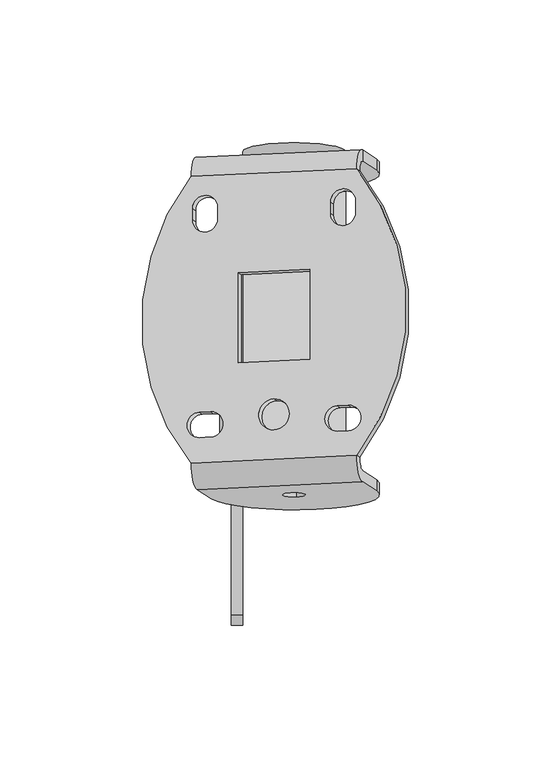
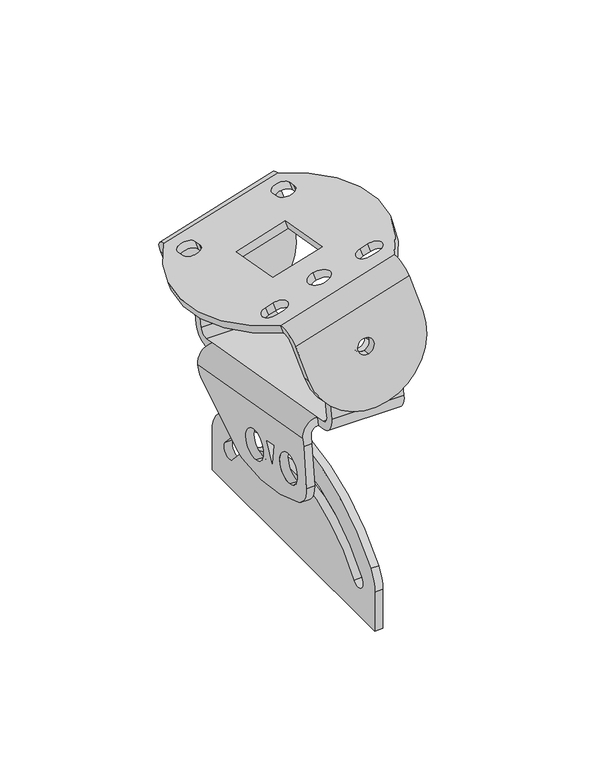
"""IFC4 building model written with IfcOpenShell, lengths in millimetres: proxy geometry, d&b U-Series U3 U5 Wall Mount : d&b U-Series U3 U5 Wall Mount."""

from ifc_helpers import new_model, si_unit, point, frame, frame_2d, origin, place, context, project, spatial, polyline, circle_curve, trimmed, segment, composite_curve, outline, extrude, source, transform, mapped, element, save
from ifc_brep_helpers import plane_surface, cylinder_surface, revolved_surface, advanced_brep


def communication_devices_d837c37c(model_context):
    return source(origin(), model_context, "Body", "SolidModel", [
        advanced_brep(
        [(23.9967392, 22.1830315, 144.0333703), (-33.9588103, 19.4864242, 128.7401501), (-29.0412485, 16.2995303, 110.6663765), (28.9143011, 18.9961376, 125.9595967), (0.9718025, 16.9769089, 114.5079816), (-1.0987499, 18.318759, 122.1179916), (-33.9588103, 23.4256552, 128.0455574), (23.9967392, 26.1222626, 143.3387776), (28.9143011, 22.9353686, 125.2650039), (-29.0412485, 20.2387613, 109.9717838), (0.9718025, 20.9161399, 113.8133889), (-1.0987499, 22.25799, 121.4233988), (23.9967392, 134.4511154, 124.237478), (23.9967392, 138.3903464, 123.5428853), (21.9261869, 131.8537345, 132.5420807), (22.9614631, 131.1828094, 128.7370757), (22.9614631, 30.7324186, 146.4491898), (21.9261869, 31.4033436, 150.2541948), (-36.0293627, 28.7067363, 134.9609746), (-34.9940865, 28.0358113, 131.1559697), (-33.9588103, 131.7545081, 108.9442579), (-34.9940865, 128.4862021, 113.4438556), (-36.0293627, 129.1571271, 117.2488605), (-33.9588103, 135.6937391, 108.2496652), (-33.1315852, 37.7048365, 134.1628021), (-33.1315852, 46.5681062, 132.5999685), (-29.2678819, 46.7478801, 133.6195165), (-29.2678819, 37.8846103, 135.1823501), (19.0284094, 40.1317831, 147.9267002), (15.1647061, 39.9520092, 146.9071522), (15.1647061, 48.815279, 145.3443186), (19.0284094, 48.9950528, 146.3638666), (-26.8530674, 118.2588008, 121.6672411), (-26.8530674, 114.3195698, 122.3618338), (-35.5463998, 113.9150787, 120.0678508), (-35.5463998, 117.8543097, 119.3732581), (12.7498915, 120.1014825, 132.1176082), (21.443224, 120.5059736, 134.4115912), (21.443224, 116.5667426, 135.1061839), (12.7498915, 116.1622515, 132.8122009), (-19.6086237, 63.9390464, 133.2163675), (-19.6086237, 95.4528945, 127.6596258), (5.5054478, 96.6214244, 134.2866878), (5.5054478, 65.1075763, 139.8434295), (-7.0515879, 51.2284067, 138.8741489), (-7.0515879, 40.3955214, 140.7842788), (-32.096309, 37.0339114, 130.3577971), (-28.2326057, 37.2136852, 131.3773451), (-28.2326057, 46.076955, 129.8145115), (-32.096309, 45.8971812, 128.7949635), (20.0636856, 39.460858, 144.1216952), (20.0636856, 48.3241278, 142.5588616), (16.1999823, 48.144354, 141.5393136), (16.1999823, 39.2810842, 143.1021472), (-25.8177912, 117.5878757, 117.8622361), (-34.5111236, 117.1833846, 115.5682531), (-34.5111236, 113.2441536, 116.2628458), (-25.8177912, 113.6486447, 118.5568288), (13.7851677, 119.4305574, 128.3126032), (13.7851677, 115.4913264, 129.0071959), (22.4785001, 115.8958175, 131.3011789), (22.4785001, 119.8350485, 130.6065862), (-18.5733475, 63.2681214, 129.4113625), (6.540724, 64.4366512, 136.0384246), (6.540724, 95.9504993, 130.4816829), (-18.5733475, 94.7819695, 123.8546208), (-6.0163117, 50.5574816, 135.0691439), (-6.0163117, 39.7245963, 136.9792739)],
        [
            (0, 1),
            (1, 2),
            (2, 3, circle_curve(frame((-0.0634737, 17.6478339, 118.3129866), z_axis=(0.0, -0.9848077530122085, 0.17364817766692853), x_axis=(-0.2588190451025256, 0.1677312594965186, 0.9512512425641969)), 30.0)),
            (3, 0),
            (4, 5, circle_curve(frame((-0.0634737, 17.6478339, 118.3129866), z_axis=(0.0, 0.9848077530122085, -0.17364817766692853), x_axis=(-0.2588190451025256, 0.1677312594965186, 0.9512512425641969)), 4.0)),
            (5, 4, circle_curve(frame((-0.0634737, 17.6478339, 118.3129866), z_axis=(0.0, 0.9848077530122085, -0.17364817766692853), x_axis=(-0.2588190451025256, 0.1677312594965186, 0.9512512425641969)), 4.0)),
            (6, 7),
            (7, 8),
            (8, 9, circle_curve(frame((-0.0634737, 21.587065, 117.6183939), z_axis=(0.0, 0.9848077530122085, -0.17364817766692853), x_axis=(-0.2588190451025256, 0.1677312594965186, 0.9512512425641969)), 30.0)),
            (9, 6),
            (10, 11, circle_curve(frame((-0.0634737, 21.587065, 117.6183939), z_axis=(0.0, -0.9848077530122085, 0.17364817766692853), x_axis=(-0.2588190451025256, 0.1677312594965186, 0.9512512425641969)), 4.0)),
            (11, 10, circle_curve(frame((-0.0634737, 21.587065, 117.6183939), z_axis=(0.0, -0.9848077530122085, 0.17364817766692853), x_axis=(-0.2588190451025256, 0.1677312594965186, 0.9512512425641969)), 4.0)),
            (12, 13),
            (13, 14, circle_curve(frame((23.9967392, 130.5118844, 124.9320707), z_axis=(0.9659258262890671, 0.0449434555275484, 0.25488700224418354), x_axis=(-0.2588190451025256, 0.1677312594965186, 0.9512512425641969)), 8.0)),
            (14, 15),
            (15, 12, circle_curve(frame((23.9967392, 130.5118844, 124.9320707), z_axis=(-0.9659258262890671, -0.0449434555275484, -0.25488700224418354), x_axis=(-0.2588190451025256, 0.1677312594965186, 0.9512512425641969)), 4.0)),
            (3, 8),
            (7, 16, circle_curve(frame((23.9967392, 30.0614936, 142.6441848), z_axis=(-0.9659258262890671, -0.0449434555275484, -0.25488700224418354), x_axis=(-0.2588190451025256, 0.1677312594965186, 0.9512512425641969)), 4.0)),
            (16, 17),
            (17, 0, circle_curve(frame((23.9967392, 30.0614936, 142.6441848), z_axis=(0.9659258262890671, 0.0449434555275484, 0.25488700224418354), x_axis=(-0.2588190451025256, 0.1677312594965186, 0.9512512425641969)), 8.0)),
            (2, 9),
            (1, 18, circle_curve(frame((-33.9588103, 27.3648862, 127.3509647), z_axis=(-0.9659258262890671, -0.0449434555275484, -0.25488700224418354), x_axis=(-0.2588190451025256, 0.1677312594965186, 0.9512512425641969)), 8.0)),
            (18, 19),
            (19, 6, circle_curve(frame((-33.9588103, 27.3648862, 127.3509647), z_axis=(0.9659258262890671, 0.0449434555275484, 0.25488700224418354), x_axis=(-0.2588190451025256, 0.1677312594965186, 0.9512512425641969)), 4.0)),
            (20, 21, circle_curve(frame((-33.9588103, 127.815277, 109.6388506), z_axis=(0.9659258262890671, 0.0449434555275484, 0.25488700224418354), x_axis=(-0.2588190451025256, 0.1677312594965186, 0.9512512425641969)), 4.0)),
            (21, 22),
            (22, 23, circle_curve(frame((-33.9588103, 127.815277, 109.6388506), z_axis=(-0.9659258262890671, -0.0449434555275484, -0.25488700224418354), x_axis=(-0.2588190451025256, 0.1677312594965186, 0.9512512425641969)), 8.0)),
            (23, 20),
            (5, 11),
            (10, 4),
            (19, 16),
            (17, 18),
            (23, 13),
            (12, 20),
            (22, 14),
            (15, 21),
            (17, 14, circle_curve(frame((-39.4560684, 78.7724909, 125.2006838), z_axis=(-0.2588190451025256, 0.1677312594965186, 0.9512512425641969), x_axis=(-0.9659258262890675, -0.04494345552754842, -0.25488700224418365)), 81.481874)),
            (22, 18, circle_curve(frame((25.3528926, 81.7879799, 142.3023715), z_axis=(-0.2588190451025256, 0.1677312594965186, 0.9512512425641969), x_axis=(0.9659258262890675, 0.04494345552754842, 0.25488700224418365)), 81.481874)),
            (24, 25, circle_curve(frame((-33.1315852, 42.1364713, 133.3813853), z_axis=(0.2588190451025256, -0.1677312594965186, -0.9512512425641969), x_axis=(0.9659258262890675, 0.04494345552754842, 0.25488700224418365)), 4.5)),
            (25, 26),
            (26, 27, circle_curve(frame((-29.2678819, 42.3162452, 134.4009333), z_axis=(0.2588190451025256, -0.1677312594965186, -0.9512512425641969), x_axis=(0.9659258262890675, 0.04494345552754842, 0.25488700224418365)), 4.5)),
            (27, 24),
            (28, 29),
            (29, 30, circle_curve(frame((15.1647061, 44.3836441, 146.1257354), z_axis=(0.2588190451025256, -0.1677312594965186, -0.9512512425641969), x_axis=(-0.9659258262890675, -0.04494345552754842, -0.25488700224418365)), 4.5)),
            (30, 31),
            (31, 28, circle_curve(frame((19.0284094, 44.5634179, 147.1452834), z_axis=(0.2588190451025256, -0.1677312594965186, -0.9512512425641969), x_axis=(-0.9659258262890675, -0.04494345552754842, -0.25488700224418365)), 4.5)),
            (32, 33),
            (33, 34, circle_curve(frame((-31.1997336, 114.1173242, 121.2148423), z_axis=(0.2588190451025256, -0.1677312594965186, -0.9512512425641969), x_axis=(0.9659258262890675, 0.04494345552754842, 0.25488700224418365)), 4.5)),
            (34, 35),
            (35, 32, circle_curve(frame((-31.1997336, 118.0565552, 120.5202496), z_axis=(0.2588190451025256, -0.1677312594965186, -0.9512512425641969), x_axis=(0.9659258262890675, 0.04494345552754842, 0.25488700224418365)), 4.5)),
            (36, 37, circle_curve(frame((17.0965577, 120.303728, 133.2645997), z_axis=(0.2588190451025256, -0.1677312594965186, -0.9512512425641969), x_axis=(0.9659258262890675, 0.04494345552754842, 0.25488700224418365)), 4.5)),
            (37, 38),
            (38, 39, circle_curve(frame((17.0965577, 116.364497, 133.9591924), z_axis=(0.2588190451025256, -0.1677312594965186, -0.9512512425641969), x_axis=(0.9659258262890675, 0.04494345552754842, 0.25488700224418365)), 4.5)),
            (39, 36),
            (40, 41),
            (41, 42),
            (42, 43),
            (43, 40),
            (44, 45, circle_curve(frame((-7.0515879, 45.811964, 139.8292139), z_axis=(0.2588190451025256, -0.1677312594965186, -0.9512512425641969), x_axis=(0.0, -0.9848077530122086, 0.173648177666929)), 5.5)),
            (45, 44, circle_curve(frame((-7.0515879, 45.811964, 139.8292139), z_axis=(0.2588190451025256, -0.1677312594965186, -0.9512512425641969), x_axis=(0.0, -0.9848077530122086, 0.173648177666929)), 5.5)),
            (19, 21, circle_curve(frame((26.3881687, 81.1170548, 138.4973665), z_axis=(0.2588190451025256, -0.1677312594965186, -0.9512512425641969), x_axis=(0.9659258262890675, 0.04494345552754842, 0.25488700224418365)), 81.481874)),
            (15, 16, circle_curve(frame((-38.4207922, 78.1015659, 121.3956789), z_axis=(0.2588190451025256, -0.1677312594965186, -0.9512512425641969), x_axis=(-0.9659258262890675, -0.04494345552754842, -0.25488700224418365)), 81.481874)),
            (46, 47),
            (47, 48, circle_curve(frame((-28.2326057, 41.6453201, 130.5959283), z_axis=(-0.2588190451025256, 0.1677312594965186, 0.9512512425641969), x_axis=(0.9659258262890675, 0.04494345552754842, 0.25488700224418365)), 4.5)),
            (48, 49),
            (49, 46, circle_curve(frame((-32.096309, 41.4655463, 129.5763803), z_axis=(-0.2588190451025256, 0.1677312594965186, 0.9512512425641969), x_axis=(0.9659258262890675, 0.04494345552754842, 0.25488700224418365)), 4.5)),
            (50, 51, circle_curve(frame((20.0636856, 43.8924929, 143.3402784), z_axis=(-0.2588190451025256, 0.1677312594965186, 0.9512512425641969), x_axis=(-0.9659258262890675, -0.04494345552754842, -0.25488700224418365)), 4.5)),
            (51, 52),
            (52, 53, circle_curve(frame((16.1999823, 43.7127191, 142.3207304), z_axis=(-0.2588190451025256, 0.1677312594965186, 0.9512512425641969), x_axis=(-0.9659258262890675, -0.04494345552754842, -0.25488700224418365)), 4.5)),
            (53, 50),
            (54, 55, circle_curve(frame((-30.1644574, 117.3856302, 116.7152446), z_axis=(-0.2588190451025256, 0.1677312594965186, 0.9512512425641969), x_axis=(0.9659258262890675, 0.04494345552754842, 0.25488700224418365)), 4.5)),
            (55, 56),
            (56, 57, circle_curve(frame((-30.1644574, 113.4463992, 117.4098373), z_axis=(-0.2588190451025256, 0.1677312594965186, 0.9512512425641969), x_axis=(0.9659258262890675, 0.04494345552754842, 0.25488700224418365)), 4.5)),
            (57, 54),
            (58, 59),
            (59, 60, circle_curve(frame((18.1318339, 115.693572, 130.1541874), z_axis=(-0.2588190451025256, 0.1677312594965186, 0.9512512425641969), x_axis=(0.9659258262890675, 0.04494345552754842, 0.25488700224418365)), 4.5)),
            (60, 61),
            (61, 58, circle_curve(frame((18.1318339, 119.632803, 129.4595947), z_axis=(-0.2588190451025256, 0.1677312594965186, 0.9512512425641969), x_axis=(0.9659258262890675, 0.04494345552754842, 0.25488700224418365)), 4.5)),
            (62, 63),
            (63, 64),
            (64, 65),
            (65, 62),
            (66, 67, circle_curve(frame((-6.0163117, 45.141039, 136.0242089), z_axis=(-0.2588190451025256, 0.1677312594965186, 0.9512512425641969), x_axis=(0.0, -0.9848077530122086, 0.173648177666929)), 5.5)),
            (67, 66, circle_curve(frame((-6.0163117, 45.141039, 136.0242089), z_axis=(-0.2588190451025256, 0.1677312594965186, 0.9512512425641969), x_axis=(0.0, -0.9848077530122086, 0.173648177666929)), 5.5)),
            (27, 47),
            (46, 24),
            (26, 48),
            (25, 49),
            (31, 51),
            (50, 28),
            (30, 52),
            (29, 53),
            (35, 55),
            (54, 32),
            (34, 56),
            (33, 57),
            (39, 59),
            (58, 36),
            (38, 60),
            (37, 61),
            (43, 63),
            (62, 40),
            (42, 64),
            (41, 65),
            (45, 67),
            (66, 44),
        ],
        [
            plane_surface(frame((28.9143011, 18.9961376, 125.9595967), z_axis=(0.0, -0.9848077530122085, 0.17364817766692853), x_axis=(0.2588190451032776, -0.16773125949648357, -0.9512512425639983))),
            plane_surface(frame((28.9143011, 22.9353686, 125.2650039), z_axis=(0.0, 0.9848077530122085, -0.17364817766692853), x_axis=(-0.2588190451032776, 0.16773125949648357, 0.9512512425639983))),
            plane_surface(frame((23.9967392, 22.1830315, 144.0333703), z_axis=(0.9659258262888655, 0.044943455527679, 0.25488700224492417), x_axis=(0.0, 0.9848077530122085, -0.17364817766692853))),
            cylinder_surface(frame((-0.0634737, 21.587065, 117.6183939), z_axis=(0.0, -0.9848077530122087, 0.17364817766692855), x_axis=(-0.2588190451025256, 0.1677312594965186, 0.9512512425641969)), 30.0),
            plane_surface(frame((-29.0412485, 16.2995303, 110.6663765), z_axis=(-0.9659258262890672, -0.04494345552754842, -0.25488700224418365), x_axis=(0.0, 0.9848077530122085, -0.17364817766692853))),
            revolved_surface(polyline([(-1.0987498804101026, 22.257990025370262, 121.42339879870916), (-1.0987498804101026, 18.318758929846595, 122.11799152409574)]), (-0.0634737, 86.5843767, 106.1576141), (0.0, 0.9848077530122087, -0.17364817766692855)),
            revolved_surface(polyline([(22.96146310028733, 30.732418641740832, 146.4491897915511), (-34.9940864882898, 28.035811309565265, 131.15596965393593)]), (23.9967392, 30.0614936, 142.6441848), (0.9659258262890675, 0.04494345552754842, 0.25488700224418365)),
            cylinder_surface(frame((23.9967392, 30.0614936, 142.6441848), z_axis=(-0.9659258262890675, -0.04494345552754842, -0.25488700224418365), x_axis=(-0.2588190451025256, 0.1677312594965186, 0.9512512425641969)), 8.0),
            plane_surface(frame((-33.9588103, 131.7545081, 108.9442579), z_axis=(0.2588190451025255, -0.16773125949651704, -0.9512512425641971), x_axis=(0.9659258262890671, 0.04494345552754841, 0.25488700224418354))),
            cylinder_surface(frame((-4.9810356, 129.1635807, 117.2854607), z_axis=(-0.9659258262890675, -0.04494345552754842, -0.25488700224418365), x_axis=(-0.2588190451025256, 0.1677312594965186, 0.9512512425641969)), 8.0),
            revolved_surface(polyline([(22.9614630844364, 131.18280940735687, 128.7370757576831), (-34.99408650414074, 128.4862020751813, 113.44385562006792)]), (-4.9810356, 129.1635807, 117.2854607), (0.9659258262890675, 0.04494345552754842, 0.25488700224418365)),
            plane_surface(frame((-37.5279184, 28.6370102, 134.5655381), z_axis=(-0.2588190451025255, 0.1677312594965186, 0.9512512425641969), x_axis=(-0.9659258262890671, -0.04494345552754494, -0.25488700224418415))),
            plane_surface(frame((-36.4926422, 27.9660851, 130.7605331), z_axis=(0.2588190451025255, -0.1677312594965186, -0.9512512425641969), x_axis=(0.9659258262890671, 0.04494345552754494, 0.25488700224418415))),
            plane_surface(frame((-33.1315852, 37.7048365, 134.1628021), z_axis=(0.0, 0.9848077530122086, -0.17364817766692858), x_axis=(0.2588190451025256, -0.1677312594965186, -0.9512512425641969))),
            revolved_surface(polyline([(-23.8859395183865, 41.84756571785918, 131.74291978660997), (-24.921215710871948, 42.518490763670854, 135.54792480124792)]), (-22.2797677, 37.7875012, 108.7171497), (0.2588190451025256, -0.1677312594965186, -0.9512512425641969)),
            plane_surface(frame((-29.2678819, 46.7478801, 133.6195165), z_axis=(0.0, -0.9848077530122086, 0.17364817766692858), x_axis=(0.2588190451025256, -0.1677312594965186, -0.9512512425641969))),
            revolved_surface(polyline([(-27.7496428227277, 41.667791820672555, 130.72337180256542), (-28.784919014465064, 42.338716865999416, 134.5283768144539)]), (-26.143471, 37.6077273, 107.6976017), (0.2588190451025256, -0.1677312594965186, -0.9512512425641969)),
            revolved_surface(polyline([(15.717019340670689, 43.69024732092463, 142.19328688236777), (14.681743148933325, 44.361172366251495, 145.99829189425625)]), (26.0165236, 40.0346739, 121.4614998), (0.2588190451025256, -0.1677312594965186, -0.9512512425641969)),
            plane_surface(frame((19.0284094, 48.9950528, 146.3638666), z_axis=(0.0, -0.9848077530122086, 0.17364817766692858), x_axis=(0.2588190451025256, -0.1677312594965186, -0.9512512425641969))),
            revolved_surface(polyline([(11.853316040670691, 43.51047352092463, 141.17373888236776), (10.818039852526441, 44.181398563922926, 144.97874388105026)]), (22.1528203, 39.8549001, 120.4419518), (0.2588190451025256, -0.1677312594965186, -0.9512512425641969)),
            plane_surface(frame((15.1647061, 39.9520092, 146.9071522), z_axis=(0.0, 0.9848077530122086, -0.17364817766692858), x_axis=(0.2588190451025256, -0.1677312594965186, -0.9512512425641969))),
            revolved_surface(polyline([(-25.817791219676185, 117.58787571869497, 117.86223609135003), (-26.853067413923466, 118.25880076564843, 121.66724111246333)]), (-24.2116194, 113.5278112, 94.836466), (0.2588190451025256, -0.1677312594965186, -0.9512512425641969)),
            plane_surface(frame((-35.5463998, 117.8543097, 119.3732581), z_axis=(0.9659258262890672, 0.044943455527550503, 0.25488700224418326), x_axis=(0.2588190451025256, -0.1677312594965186, -0.9512512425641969))),
            revolved_surface(polyline([(-25.817791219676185, 113.64864471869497, 118.55682879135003), (-26.853067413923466, 114.31956976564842, 122.36183381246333)]), (-24.2116194, 109.5885802, 95.5310587), (0.2588190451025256, -0.1677312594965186, -0.9512512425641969)),
            plane_surface(frame((-26.8530674, 114.3195698, 122.3618338), z_axis=(-0.9659258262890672, -0.044943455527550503, -0.25488700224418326), x_axis=(0.2588190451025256, -0.1677312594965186, -0.9512512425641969))),
            plane_surface(frame((12.7498915, 120.1014825, 132.1176082), z_axis=(0.9659258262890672, 0.044943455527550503, 0.25488700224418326), x_axis=(0.2588190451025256, -0.1677312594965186, -0.9512512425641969))),
            revolved_surface(polyline([(22.478500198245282, 115.89581750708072, 131.30117892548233), (21.443224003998, 116.56674255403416, 135.10618394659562)]), (24.084672, 111.835753, 108.2754089), (0.2588190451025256, -0.1677312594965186, -0.9512512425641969)),
            plane_surface(frame((21.443224, 116.5667426, 135.1061839), z_axis=(-0.9659258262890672, -0.044943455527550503, -0.25488700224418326), x_axis=(0.2588190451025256, -0.1677312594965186, -0.9512512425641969))),
            revolved_surface(polyline([(22.478500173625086, 119.83504852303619, 130.60658621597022), (21.443223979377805, 120.50597356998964, 134.41159123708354)]), (24.084672, 115.774984, 107.5808161), (0.2588190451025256, -0.1677312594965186, -0.9512512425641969)),
            plane_surface(frame((-19.6086237, 63.9390464, 133.2163675), z_axis=(0.0, 0.9848077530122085, -0.17364817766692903), x_axis=(0.2588190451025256, -0.1677312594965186, -0.9512512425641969))),
            plane_surface(frame((5.5054478, 65.1075763, 139.8434295), z_axis=(-0.9659258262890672, -0.044943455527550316, -0.2548870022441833), x_axis=(0.2588190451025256, -0.1677312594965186, -0.9512512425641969))),
            plane_surface(frame((5.5054478, 96.6214244, 134.2866878), z_axis=(0.0, -0.9848077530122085, 0.17364817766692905), x_axis=(0.2588190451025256, -0.1677312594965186, -0.9512512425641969))),
            plane_surface(frame((-19.6086237, 95.4528945, 127.6596258), z_axis=(0.9659258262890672, 0.04494345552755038, 0.25488700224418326), x_axis=(0.2588190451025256, -0.1677312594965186, -0.9512512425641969))),
            revolved_surface(polyline([(-6.016311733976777, 39.724596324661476, 136.97927384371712), (-7.051587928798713, 40.39552137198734, 140.7842788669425)]), (-0.0634737, 41.28322, 114.1454303), (0.2588190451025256, -0.1677312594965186, -0.9512512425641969)),
            cylinder_surface(frame((26.3881687, 81.1170548, 138.4973665), z_axis=(-0.2588190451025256, 0.1677312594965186, 0.9512512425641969), x_axis=(0.9659258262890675, 0.04494345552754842, 0.25488700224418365)), 81.481874),
            cylinder_surface(frame((-38.4207922, 78.1015659, 121.3956789), z_axis=(-0.2588190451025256, 0.1677312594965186, 0.9512512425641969), x_axis=(-0.9659258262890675, -0.04494345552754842, -0.25488700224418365)), 81.481874),
        ],
        [
            (0, [[1, 2, 3, 4], [5, 6]]),
            (1, [[7, 8, 9, 10], [11, 12]]),
            (2, [[13, 14, 15, 16]]),
            (2, [[17, -8, 18, 19, 20, -4]]),
            (3, [[21, -9, -17, -3]]),
            (4, [[22, 23, 24, -10, -21, -2]]),
            (4, [[25, 26, 27, 28]]),
            (5, [[29, -11, 30, -6]]),
            (5, [[-30, -12, -29, -5]]),
            (6, [[31, -18, -7, -24]]),
            (7, [[-1, -20, 32, -22]]),
            (8, [[33, -13, 34, -28]]),
            (9, [[35, -14, -33, -27]]),
            (10, [[-34, -16, 36, -25]]),
            (11, [[-32, 37, -35, 38], [39, 40, 41, 42], [43, 44, 45, 46], [47, 48, 49, 50], [51, 52, 53, 54], [55, 56, 57, 58], [59, 60]]),
            (12, [[-31, 61, -36, 62], [63, 64, 65, 66], [67, 68, 69, 70], [71, 72, 73, 74], [75, 76, 77, 78], [79, 80, 81, 82], [83, 84]]),
            (13, [[85, -63, 86, -42]]),
            (14, [[87, -64, -85, -41]]),
            (15, [[88, -65, -87, -40]]),
            (16, [[-86, -66, -88, -39]]),
            (17, [[89, -67, 90, -46]]),
            (18, [[91, -68, -89, -45]]),
            (19, [[92, -69, -91, -44]]),
            (20, [[-90, -70, -92, -43]]),
            (21, [[93, -71, 94, -50]]),
            (22, [[95, -72, -93, -49]]),
            (23, [[96, -73, -95, -48]]),
            (24, [[-94, -74, -96, -47]]),
            (25, [[97, -75, 98, -54]]),
            (26, [[99, -76, -97, -53]]),
            (27, [[100, -77, -99, -52]]),
            (28, [[-98, -78, -100, -51]]),
            (29, [[101, -79, 102, -58]]),
            (30, [[103, -80, -101, -57]]),
            (31, [[104, -81, -103, -56]]),
            (32, [[-102, -82, -104, -55]]),
            (33, [[105, -83, 106, -60]]),
            (33, [[-106, -84, -105, -59]]),
            (34, [[-26, -61, -23, -38]]),
            (35, [[-19, -62, -15, -37]]),
        ],
    ),
        extrude(outline(composite_curve([segment(polyline([(19.0, 0.0), (0.0, 0.0)]), True, "CONTINUOUS"), segment(trimmed(circle_curve(frame_2d((0.0, 30.0)), 30.0), [point((0.0, 0.0))], [point((0.0, 60.0))], False, "CARTESIAN"), True, "CONTINUOUS"), segment(polyline([(0.0, 60.0), (19.0, 60.0), (19.0, 0.0)]), True, "CONTINUOUS")], self_intersect=False), holes=[composite_curve([segment(trimmed(circle_curve(frame_2d((0.0, 30.0)), 4.0), [point((-4.0, 30.0))], [point((4.0, 30.0))], True, "CARTESIAN"), True, "CONTINUOUS"), segment(trimmed(circle_curve(frame_2d((0.0, 30.0)), 4.0), [point((4.0, 30.0))], [point((-4.0, 30.0))], True, "CARTESIAN"), True, "CONTINUOUS")], self_intersect=False)]), frame((28.9143011, 135.2034525, 105.4691117), z_axis=(0.0, -0.9848077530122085, 0.17364817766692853), x_axis=(-0.2588190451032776, 0.16773125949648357, 0.9512512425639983)), (0.0, 0.0, 1.0), 4.0),
        advanced_brep(
        [(-22.0, 82.6863439, 32.4812505), (-22.0, 112.3519595, 50.4080282), (-22.0, 117.5279607, 57.0553512), (-22.0, 26.9256475, 73.0309835), (-22.0, 26.292206, 69.4385584), (-22.0, 23.9133082, 48.7645932), (-22.0, 30.6948194, 37.509776), (-22.0, 79.2319778, 31.1885311), (-22.0, 57.9780366, 53.3396369), (-22.0, 53.2871315, 44.0125039), (-22.0, 52.0691901, 54.381526), (-22.0, 69.8413131, 52.3641569), (-22.0, 67.2346618, 37.5811023), (-22.0, 40.5877228, 57.5223542), (-22.0, 37.9810714, 42.7392996), (-26.0, 82.6863439, 32.4812505), (-26.0, 79.2319778, 31.1885311), (-26.0, 30.6948194, 37.509776), (-26.0, 23.9133082, 48.7645932), (-26.0, 26.292206, 69.4385584), (-26.0, 26.9256475, 73.0309835), (-26.0, 117.5279607, 57.0553512), (-26.0, 112.3519595, 50.4080282), (-26.0, 57.9780366, 53.3396369), (-26.0, 52.0691901, 54.381526), (-26.0, 53.2871315, 44.0125039), (-26.0, 69.8413131, 52.3641569), (-26.0, 67.2346618, 37.5811023), (-26.0, 40.5877228, 57.5223542), (-26.0, 37.9810714, 42.7392996), (-18.0, 27.6202402, 76.9702145), (-18.0, 28.3148329, 80.9094455), (-18.0, 118.9171462, 64.9338132), (-18.0, 118.2225535, 60.9945822), (18.0, 132.4142397, 66.6156179), (-18.0, 132.4142397, 66.6156179), (-18.0, 137.7973332, 97.1446583), (18.0, 137.7973332, 97.1446583), (-4.0, 137.7973332, 97.1446583), (4.0, 137.7973332, 97.1446583), (-18.0, 128.4750087, 67.3102106), (18.0, 128.4750087, 67.3102106), (18.0, 133.8581022, 97.839251), (-18.0, 133.8581022, 97.839251), (-4.0, 133.8581022, 97.839251), (4.0, 133.8581022, 97.839251), (18.0, 123.8411849, 64.0655723), (18.0, 23.3907941, 81.7776864), (18.0, 20.1461558, 86.4115102), (18.0, 25.5292493, 116.9405505), (18.0, 21.5900183, 117.6351432), (18.0, 16.2069248, 87.1061029), (18.0, 22.6962014, 77.8384554), (18.0, 123.1465922, 60.1263413), (-18.0, 123.1465922, 60.1263413), (-18.0, 123.8411849, 64.0655723), (-18.0, 23.3907941, 81.7776864), (-18.0, 22.6962014, 77.8384554), (-18.0, 16.2069248, 87.1061029), (-18.0, 21.5900183, 117.6351432), (-18.0, 25.5292493, 116.9405505), (-18.0, 20.1461558, 86.4115102), (-4.0, 25.5292493, 116.9405505), (4.0, 25.5292493, 116.9405505), (-4.0, 21.5900183, 117.6351432), (4.0, 21.5900183, 117.6351432)],
        [
            (0, 1),
            (1, 2, circle_curve(frame((-22.0, 106.2585276, 60.4915697), z_axis=(1.0, 0.0, 0.0), x_axis=(0.0, -0.17364817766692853, -0.9848077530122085)), 11.7816689)),
            (2, 3),
            (3, 4),
            (4, 5, circle_curve(frame((-22.0, 197.2668637, 39.2911132), z_axis=(1.0, 0.0, 0.0), x_axis=(0.0, -0.17364817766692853, -0.9848077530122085)), 173.6122173)),
            (5, 6, circle_curve(frame((-22.0, 35.5849243, 48.126759), z_axis=(1.0, 0.0, 0.0), x_axis=(0.0, -0.17364817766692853, -0.9848077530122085)), 11.6890314)),
            (6, 7, circle_curve(frame((-22.0, 65.1045734, 112.2173299), z_axis=(1.0, 0.0, 0.0), x_axis=(0.0, -0.17364817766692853, -0.9848077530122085)), 82.2511385)),
            (7, 0, circle_curve(frame((-22.0, 77.5143841, 41.0399205), z_axis=(1.0, 0.0, 0.0), x_axis=(0.0, -0.17364817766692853, -0.9848077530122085)), 10.0)),
            (8, 9),
            (9, 10),
            (10, 8),
            (11, 12, circle_curve(frame((-22.0, 68.5379874, 44.9726296), z_axis=(-1.0, 0.0, 0.0), x_axis=(0.0, -0.17364817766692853, -0.9848077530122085)), 7.5055535)),
            (12, 11, circle_curve(frame((-22.0, 68.5379874, 44.9726296), z_axis=(-1.0, 0.0, 0.0), x_axis=(0.0, -0.17364817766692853, -0.9848077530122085)), 7.5055535)),
            (13, 14, circle_curve(frame((-22.0, 39.2843971, 50.1308269), z_axis=(-1.0, 0.0, 0.0), x_axis=(0.0, -0.17364817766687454, -0.984807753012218)), 7.5055535)),
            (14, 13, circle_curve(frame((-22.0, 39.2843971, 50.1308269), z_axis=(-1.0, 0.0, 0.0), x_axis=(0.0, -0.17364817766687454, -0.984807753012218)), 7.5055535)),
            (15, 16, circle_curve(frame((-26.0, 77.5143841, 41.0399205), z_axis=(-1.0, 0.0, 0.0), x_axis=(0.0, -0.17364817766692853, -0.9848077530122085)), 10.0)),
            (16, 17, circle_curve(frame((-26.0, 65.1045734, 112.2173299), z_axis=(-1.0, 0.0, 0.0), x_axis=(0.0, -0.17364817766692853, -0.9848077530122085)), 82.2511385)),
            (17, 18, circle_curve(frame((-26.0, 35.5849243, 48.126759), z_axis=(-1.0, 0.0, 0.0), x_axis=(0.0, -0.17364817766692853, -0.9848077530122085)), 11.6890314)),
            (18, 19, circle_curve(frame((-26.0, 197.2668637, 39.2911132), z_axis=(-1.0, 0.0, 0.0), x_axis=(0.0, -0.17364817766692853, -0.9848077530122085)), 173.6122173)),
            (19, 20),
            (20, 21),
            (21, 22, circle_curve(frame((-26.0, 106.2585276, 60.4915697), z_axis=(-1.0, 0.0, 0.0), x_axis=(0.0, -0.17364817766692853, -0.9848077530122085)), 11.7816689)),
            (22, 15),
            (23, 24),
            (24, 25),
            (25, 23),
            (26, 27, circle_curve(frame((-26.0, 68.5379874, 44.9726296), z_axis=(1.0, 0.0, 0.0), x_axis=(0.0, -0.17364817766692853, -0.9848077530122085)), 7.5055535)),
            (27, 26, circle_curve(frame((-26.0, 68.5379874, 44.9726296), z_axis=(1.0, 0.0, 0.0), x_axis=(0.0, -0.17364817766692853, -0.9848077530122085)), 7.5055535)),
            (28, 29, circle_curve(frame((-26.0, 39.2843971, 50.1308269), z_axis=(1.0, 0.0, 0.0), x_axis=(0.0, -0.17364817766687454, -0.984807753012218)), 7.5055535)),
            (29, 28, circle_curve(frame((-26.0, 39.2843971, 50.1308269), z_axis=(1.0, 0.0, 0.0), x_axis=(0.0, -0.17364817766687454, -0.984807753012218)), 7.5055535)),
            (0, 15),
            (22, 1),
            (7, 16),
            (6, 17),
            (4, 19),
            (18, 5),
            (3, 30, circle_curve(frame((-18.0, 26.9256475, 73.0309835), z_axis=(0.0, 0.9848077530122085, -0.17364817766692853), x_axis=(1.0000000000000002, 0.0, 0.0)), 4.0)),
            (30, 31),
            (31, 20, circle_curve(frame((-18.0, 26.9256475, 73.0309835), z_axis=(0.0, -0.9848077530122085, 0.17364817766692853), x_axis=(1.0000000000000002, 0.0, 0.0)), 8.0)),
            (21, 2),
            (32, 33),
            (33, 2, circle_curve(frame((-18.0, 117.5279607, 57.0553512), z_axis=(0.0, -0.9848077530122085, 0.17364817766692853), x_axis=(1.0000000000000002, 0.0, 0.0)), 4.0)),
            (21, 32, circle_curve(frame((-18.0, 117.5279607, 57.0553512), z_axis=(0.0, 0.9848077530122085, -0.17364817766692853), x_axis=(1.0000000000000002, 0.0, 0.0)), 8.0)),
            (31, 32),
            (33, 30),
            (34, 35),
            (35, 36),
            (36, 37, circle_curve(frame((0.0, 137.7973332, 97.1446583), z_axis=(0.0, 0.9848077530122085, -0.17364817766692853), x_axis=(1.0000000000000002, 0.0, 0.0)), 18.0)),
            (37, 34),
            (38, 39, circle_curve(frame((0.0, 137.7973332, 97.1446583), z_axis=(0.0, -0.9848077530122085, 0.17364817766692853), x_axis=(1.0000000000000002, 0.0, 0.0)), 4.0)),
            (39, 38, circle_curve(frame((0.0, 137.7973332, 97.1446583), z_axis=(0.0, -0.9848077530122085, 0.17364817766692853), x_axis=(1.0000000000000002, 0.0, 0.0)), 4.0)),
            (40, 41),
            (41, 42),
            (42, 43, circle_curve(frame((0.0, 133.8581022, 97.839251), z_axis=(0.0, -0.9848077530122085, 0.17364817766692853), x_axis=(1.0000000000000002, 0.0, 0.0)), 18.0)),
            (43, 40),
            (44, 45, circle_curve(frame((0.0, 133.8581022, 97.839251), z_axis=(0.0, 0.9848077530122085, -0.17364817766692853), x_axis=(1.0000000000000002, 0.0, 0.0)), 4.0)),
            (45, 44, circle_curve(frame((0.0, 133.8581022, 97.839251), z_axis=(0.0, 0.9848077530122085, -0.17364817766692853), x_axis=(1.0000000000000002, 0.0, 0.0)), 4.0)),
            (37, 42),
            (41, 46, circle_curve(frame((18.0, 124.5357776, 68.0048033), z_axis=(-1.0, 0.0, 0.0), x_axis=(0.0, -0.17364817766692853, -0.9848077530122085)), 4.0)),
            (46, 47),
            (47, 48, circle_curve(frame((18.0, 24.0853868, 85.7169175), z_axis=(-1.0, 0.0, 0.0), x_axis=(0.0, -0.17364817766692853, -0.9848077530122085)), 4.0)),
            (48, 49),
            (49, 50),
            (50, 51),
            (51, 52, circle_curve(frame((18.0, 24.0853868, 85.7169175), z_axis=(1.0, 0.0, 0.0), x_axis=(0.0, -0.17364817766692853, -0.9848077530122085)), 8.0)),
            (52, 53),
            (53, 34, circle_curve(frame((18.0, 124.5357776, 68.0048033), z_axis=(1.0, 0.0, 0.0), x_axis=(0.0, -0.17364817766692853, -0.9848077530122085)), 8.0)),
            (36, 43),
            (35, 54, circle_curve(frame((-18.0, 124.5357776, 68.0048033), z_axis=(-1.0, 0.0, 0.0), x_axis=(0.0, -0.17364817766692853, -0.9848077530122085)), 8.0)),
            (54, 33),
            (32, 55),
            (55, 40, circle_curve(frame((-18.0, 124.5357776, 68.0048033), z_axis=(1.0, 0.0, 0.0), x_axis=(0.0, -0.17364817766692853, -0.9848077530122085)), 4.0)),
            (56, 31),
            (30, 57),
            (57, 58, circle_curve(frame((-18.0, 24.0853868, 85.7169175), z_axis=(-1.0, 0.0, 0.0), x_axis=(0.0, -0.17364817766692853, -0.9848077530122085)), 8.0)),
            (58, 59),
            (59, 60),
            (60, 61),
            (61, 56, circle_curve(frame((-18.0, 24.0853868, 85.7169175), z_axis=(1.0, 0.0, 0.0), x_axis=(0.0, -0.17364817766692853, -0.9848077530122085)), 4.0)),
            (39, 45),
            (44, 38),
            (48, 61),
            (60, 49, circle_curve(frame((0.0, 25.5292493, 116.9405505), z_axis=(0.0, 0.9848077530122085, -0.17364817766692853), x_axis=(1.0000000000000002, 0.0, 0.0)), 18.0)),
            (62, 63, circle_curve(frame((0.0, 25.5292493, 116.9405505), z_axis=(0.0, -0.9848077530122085, 0.17364817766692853), x_axis=(1.0000000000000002, 0.0, 0.0)), 4.0)),
            (63, 62, circle_curve(frame((0.0, 25.5292493, 116.9405505), z_axis=(0.0, -0.9848077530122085, 0.17364817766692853), x_axis=(1.0000000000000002, 0.0, 0.0)), 4.0)),
            (58, 51),
            (50, 59, circle_curve(frame((0.0, 21.5900183, 117.6351432), z_axis=(0.0, -0.9848077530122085, 0.17364817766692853), x_axis=(1.0000000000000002, 0.0, 0.0)), 18.0)),
            (64, 65, circle_curve(frame((0.0, 21.5900183, 117.6351432), z_axis=(0.0, 0.9848077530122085, -0.17364817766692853), x_axis=(1.0000000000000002, 0.0, 0.0)), 4.0)),
            (65, 64, circle_curve(frame((0.0, 21.5900183, 117.6351432), z_axis=(0.0, 0.9848077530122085, -0.17364817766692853), x_axis=(1.0000000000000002, 0.0, 0.0)), 4.0)),
            (63, 65),
            (64, 62),
            (53, 54),
            (52, 57),
            (47, 56),
            (46, 55),
            (10, 24),
            (23, 8),
            (9, 25),
            (12, 27),
            (26, 11),
            (14, 29),
            (28, 13),
        ],
        [
            plane_surface(frame((-22.0, 75.7779023, 31.1918429), z_axis=(1.0000000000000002, 0.0, 0.0), x_axis=(0.0, -0.9848077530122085, 0.17364817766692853))),
            plane_surface(frame((-26.0, 75.7779023, 31.1918429), z_axis=(-1.0000000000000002, 0.0, 0.0), x_axis=(0.0, 0.9848077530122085, -0.17364817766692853))),
            plane_surface(frame((-22.0, 112.3519595, 50.4080282), z_axis=(0.0, 0.5171959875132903, -0.8558669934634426), x_axis=(-1.0, 0.0, 0.0))),
            cylinder_surface(frame((-26.0, 77.5143841, 41.0399205), z_axis=(1.0000000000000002, 0.0, 0.0), x_axis=(0.0, -0.17364817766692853, -0.9848077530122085)), 10.0),
            cylinder_surface(frame((-26.0, 65.1045734, 112.2173299), z_axis=(1.0000000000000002, 0.0, 0.0), x_axis=(0.0, -0.17364817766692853, -0.9848077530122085)), 82.2511385),
            cylinder_surface(frame((-26.0, 197.2668637, 39.2911132), z_axis=(1.0000000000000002, 0.0, 0.0), x_axis=(0.0, -0.17364817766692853, -0.9848077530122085)), 173.6122173),
            plane_surface(frame((-22.0, 26.292206, 69.4385584), z_axis=(0.0, -0.9848077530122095, 0.1736481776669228), x_axis=(-1.0, 0.0, 0.0))),
            cylinder_surface(frame((-26.0, 106.2585276, 60.4915697), z_axis=(1.0000000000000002, 0.0, 0.0), x_axis=(0.0, -0.17364817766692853, -0.9848077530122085)), 11.7816689),
            cylinder_surface(frame((-26.0, 35.5849243, 48.126759), z_axis=(1.0000000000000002, 0.0, 0.0), x_axis=(0.0, -0.17364817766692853, -0.9848077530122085)), 11.6890314),
            plane_surface(frame((-18.0, 118.9171462, 64.9338132), z_axis=(0.0, 0.9848077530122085, -0.17364817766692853), x_axis=(0.0, 0.17364817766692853, 0.9848077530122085))),
            cylinder_surface(frame((-18.0, 26.9256475, 73.0309835), z_axis=(0.0, 0.9848077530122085, -0.17364817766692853), x_axis=(1.0000000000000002, 0.0, 0.0)), 8.0),
            revolved_surface(polyline([(-14.0, 26.925647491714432, 73.03098350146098), (-14.0, 117.52796078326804, 57.05535115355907)]), (-18.0, 26.9256475, 73.0309835), (0.0, -0.9848077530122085, 0.17364817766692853)),
            plane_surface(frame((18.0, 132.4142397, 66.6156179), z_axis=(0.0, 0.9848077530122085, -0.17364817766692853), x_axis=(0.0, 0.17364817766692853, 0.9848077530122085))),
            plane_surface(frame((18.0, 128.4750087, 67.3102106), z_axis=(0.0, -0.9848077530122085, 0.17364817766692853), x_axis=(0.0, -0.17364817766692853, -0.9848077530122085))),
            plane_surface(frame((18.0, 132.4142397, 66.6156179), z_axis=(1.0000000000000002, 0.0, 0.0), x_axis=(0.0, -0.9848077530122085, 0.17364817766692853))),
            cylinder_surface(frame((0.0, 133.8581022, 97.839251), z_axis=(0.0, 0.9848077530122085, -0.17364817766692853), x_axis=(1.0000000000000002, 0.0, 0.0)), 18.0),
            plane_surface(frame((-18.0, 137.7973332, 97.1446583), z_axis=(-1.0000000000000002, 0.0, 0.0), x_axis=(0.0, -0.9848077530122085, 0.17364817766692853))),
            revolved_surface(polyline([(4.000000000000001, 133.8581021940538, 97.83925096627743), (4.000000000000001, 137.79733319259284, 97.14465825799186)]), (0.0, 64.9215595, 109.9946234), (0.0, -0.9848077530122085, 0.17364817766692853)),
            plane_surface(frame((18.0, 20.1461558, 86.4115102), z_axis=(0.0, 0.9848077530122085, -0.17364817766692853), x_axis=(0.0, 0.17364817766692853, 0.9848077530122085))),
            plane_surface(frame((18.0, 16.2069248, 87.1061029), z_axis=(0.0, -0.9848077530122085, 0.17364817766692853), x_axis=(0.0, -0.17364817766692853, -0.9848077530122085))),
            cylinder_surface(frame((0.0, 21.5900183, 117.6351432), z_axis=(0.0, 0.9848077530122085, -0.17364817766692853), x_axis=(1.0000000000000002, 0.0, 0.0)), 18.0),
            revolved_surface(polyline([(4.000000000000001, 21.59001831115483, 117.63514326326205), (4.000000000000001, 25.529249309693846, 116.94055055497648)]), (0.0, -47.3465244, 129.7905157), (0.0, -0.9848077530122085, 0.17364817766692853)),
            cylinder_surface(frame((-18.0, 124.5357776, 68.0048033), z_axis=(1.0000000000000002, 0.0, 0.0), x_axis=(0.0, -0.17364817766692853, -0.9848077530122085)), 8.0),
            plane_surface(frame((18.0, 123.1465922, 60.1263413), z_axis=(0.0, -0.17364817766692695, -0.9848077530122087), x_axis=(-1.0, 0.0, 0.0))),
            cylinder_surface(frame((-18.0, 24.0853868, 85.7169175), z_axis=(1.0000000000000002, 0.0, 0.0), x_axis=(0.0, -0.17364817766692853, -0.9848077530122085)), 8.0),
            revolved_surface(polyline([(-18.0, 23.390794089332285, 81.77768648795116), (18.000000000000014, 23.390794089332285, 81.77768648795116)]), (-18.0, 24.0853868, 85.7169175), (-1.0000000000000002, 0.0, 0.0)),
            plane_surface(frame((18.0, 23.3907941, 81.7776864), z_axis=(0.0, 0.17364817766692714, 0.9848077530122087), x_axis=(-1.0, 0.0, 0.0))),
            revolved_surface(polyline([(-18.0, 123.84118488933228, 64.06557228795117), (18.000000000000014, 123.84118488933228, 64.06557228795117)]), (-18.0, 124.5357776, 68.0048033), (-1.0000000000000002, 0.0, 0.0)),
            plane_surface(frame((-22.0, 57.9780366, 53.3396369), z_axis=(0.0, -0.17364817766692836, -0.9848077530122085), x_axis=(-1.0, 0.0, 0.0))),
            plane_surface(frame((-22.0, 52.0691901, 54.381526), z_axis=(0.0, 0.9931721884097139, 0.11665763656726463), x_axis=(-1.0, 0.0, 0.0))),
            plane_surface(frame((-22.0, 53.2871315, 44.0125039), z_axis=(0.0, -0.8933773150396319, 0.4493072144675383), x_axis=(-1.0, 0.0, 0.0))),
            revolved_surface(polyline([(-26.000000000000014, 67.23466171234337, 37.581102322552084), (-22.000000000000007, 67.23466171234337, 37.581102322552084)]), (0.0, 68.5379874, 44.9726296), (-1.0000000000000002, 0.0, 0.0)),
            revolved_surface(polyline([(-26.000000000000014, 37.981071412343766, 42.73929962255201), (-22.000000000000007, 37.981071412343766, 42.73929962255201)]), (0.0, 39.2843971, 50.1308269), (-1.0000000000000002, 0.0, 0.0)),
        ],
        [
            (0, [[1, 2, 3, 4, 5, 6, 7, 8], [9, 10, 11], [12, 13], [14, 15]]),
            (1, [[16, 17, 18, 19, 20, 21, 22, 23], [24, 25, 26], [27, 28], [29, 30]]),
            (2, [[31, -23, 32, -1]]),
            (3, [[33, -16, -31, -8]]),
            (4, [[34, -17, -33, -7]]),
            (5, [[35, -19, 36, -5]]),
            (6, [[37, 38, 39, -20, -35, -4]]),
            (7, [[-32, -22, 40, -2]]),
            (8, [[-36, -18, -34, -6]]),
            (9, [[41, 42, -40, 43]]),
            (10, [[-21, -39, 44, -43]]),
            (11, [[45, -37, -3, -42]]),
            (12, [[46, 47, 48, 49], [50, 51]]),
            (13, [[52, 53, 54, 55], [56, 57]]),
            (14, [[58, -53, 59, 60, 61, 62, 63, 64, 65, 66, 67, -49]]),
            (15, [[68, -54, -58, -48]]),
            (16, [[69, 70, -41, 71, 72, -55, -68, -47]]),
            (16, [[73, -38, 74, 75, 76, 77, 78, 79]]),
            (17, [[80, -56, 81, -51]]),
            (17, [[-81, -57, -80, -50]]),
            (18, [[82, -78, 83, -62], [84, 85]]),
            (19, [[86, -64, 87, -76], [88, 89]]),
            (20, [[-77, -87, -63, -83]]),
            (21, [[90, -88, 91, -85]]),
            (21, [[-91, -89, -90, -84]]),
            (22, [[92, -69, -46, -67]]),
            (23, [[93, -74, -45, -70, -92, -66]]),
            (24, [[-86, -75, -93, -65]]),
            (25, [[94, -79, -82, -61]]),
            (26, [[95, -71, -44, -73, -94, -60]]),
            (27, [[-52, -72, -95, -59]]),
            (28, [[96, -24, 97, -11]]),
            (29, [[98, -25, -96, -10]]),
            (30, [[-97, -26, -98, -9]]),
            (31, [[99, -27, 100, -13]]),
            (31, [[-100, -28, -99, -12]]),
            (32, [[101, -29, 102, -15]]),
            (32, [[-102, -30, -101, -14]]),
        ],
    ),
        extrude(outline(composite_curve([segment(trimmed(circle_curve(frame_2d((-12.0, 24.5421149)), 16.0), [point((-28.0, 24.5421149))], [point((-24.3428571, 34.7231697))], False, "CARTESIAN"), True, "CONTINUOUS"), segment(trimmed(circle_curve(frame_2d((42.0, -20.0)), 86.0), [point((-24.3428571, 34.7231697))], [point((108.3428571, 34.7231697))], False, "CARTESIAN"), True, "CONTINUOUS"), segment(trimmed(circle_curve(frame_2d((96.0, 24.5421149)), 16.0), [point((108.3428571, 34.7231697))], [point((112.0, 24.5421149))], False, "CARTESIAN"), True, "CONTINUOUS"), segment(polyline([(112.0, 24.5421149), (112.0, 4.0), (-28.0, 4.0), (-28.0, 24.5421149)]), True, "CONTINUOUS")], self_intersect=False), holes=[composite_curve([segment(trimmed(circle_curve(frame_2d((42.0, -20.0)), 65.85), [point((-10.2423175, 20.0869401))], [point((94.2423175, 20.0869401))], False, "CARTESIAN"), True, "CONTINUOUS"), segment(trimmed(circle_curve(frame_2d((97.5347338, 22.6133)), 4.15), [point((94.2423175, 20.0869401))], [point((100.8271502, 25.13966))], True, "CARTESIAN"), True, "CONTINUOUS"), segment(trimmed(circle_curve(frame_2d((42.0, -20.0)), 74.15), [point((100.8271502, 25.13966))], [point((-16.8271502, 25.13966))], True, "CARTESIAN"), True, "CONTINUOUS"), segment(trimmed(circle_curve(frame_2d((-13.5347338, 22.6133)), 4.15), [point((-16.8271502, 25.13966))], [point((-10.2423175, 20.0869401))], True, "CARTESIAN"), True, "CONTINUOUS")], self_intersect=False)]), frame((-22.0, 0.0, 0.0), z_axis=(1.0, 0.0, 0.0), x_axis=(0.0, 1.0, 0.0)), (0.0, 0.0, 1.0), 4.0),
    ])


if __name__ == "__main__":
    model = new_model("IFC4")
    model_context = context("Model", 3, world=origin())
    ifc_project = project(units=[si_unit("LENGTHUNIT", "METRE", prefix="MILLI")], contexts=[model_context])
    site = spatial("IfcSite", under=ifc_project)
    building = spatial("IfcBuilding", under=site)
    placement = place(None, origin())
    communication_devices_shape = communication_devices_d837c37c(model_context)
    element("IfcBuildingElementProxy", 1, Name="d&b U-Series U3 U5 Wall Mount : d&b U-Series U3 U5 Wall Mount", ObjectType="d&b U-Series U3 U5 Wall Mount : d&b U-Series U3 U5 Wall Mount", at=placement, inside=building, context=model_context, shape_type="MappedRepresentation", body=[
        mapped(communication_devices_shape, transform((0.0, 0.0, 0.0), x_axis=(1.0, 0.0, 0.0), y_axis=(0.0, 1.0, 0.0), z_axis=(0.0, 0.0, 1.0))),
    ])
    save(model, "model.ifc")
